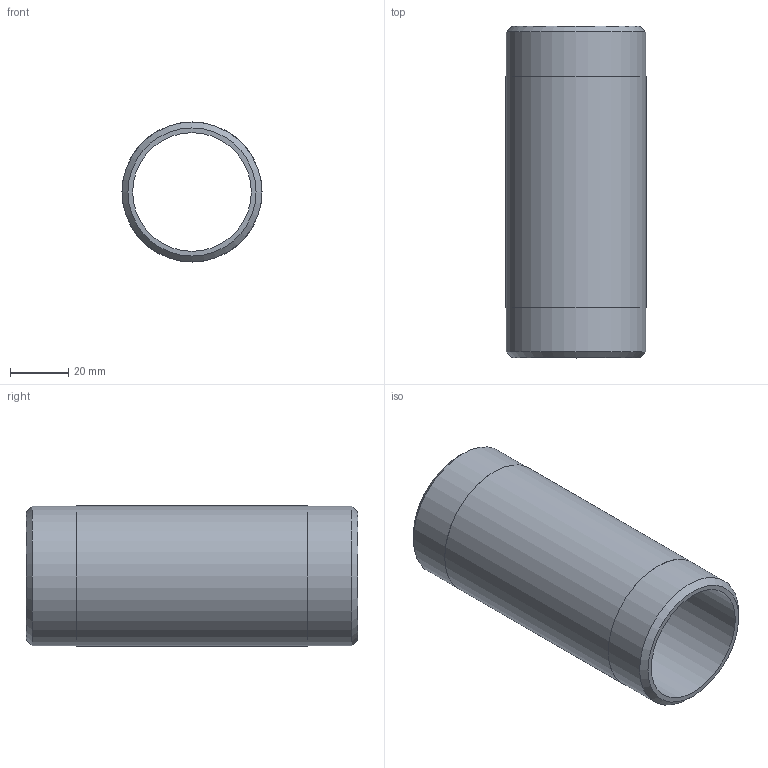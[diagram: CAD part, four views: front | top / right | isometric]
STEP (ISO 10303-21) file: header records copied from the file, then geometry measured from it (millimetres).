
FILE_DESCRIPTION(/* description */ (''),/* implementation_level */ '2;1');
FILE_NAME(/* name */ 'C:/Users/drich/Desktop/BPN1-1_2-4-1_2 v1.step',/* time_stamp */ '2020-01-03T14:27:01-06:00',/* author */ (''),/* organization */ (''),/* preprocessor_version */ 'ST-DEVELOPER v18',/* originating_system */ 'Autodesk Translation Framework v8.12.0.6',/* authorisation */ '');
FILE_SCHEMA (('AUTOMOTIVE_DESIGN { 1 0 10303 214 3 1 1 }'));
Length unit declared in the file: inch
Products named in the file (1): BPN1-1_2-4-1_2
Bounding box: 48.26 x 114.3 x 48.26 mm (x, y, z)
Volume: 58212.4 mm3; surface area: 32668.5 mm2
Topology: 1 solids, 1 shells, 10 faces, 24 edges, 18 vertices
Faces by surface type: cylinder 4, plane 4, cone 2
Full cylindrical faces by diameter (mm): 40.894 x1, 48.209 x2, 48.26 x1
Entity records: 360 total; most frequent: DIRECTION 64, CARTESIAN_POINT 53, ORIENTED_EDGE 48, AXIS2_PLACEMENT_3D 29, EDGE_CURVE 24, CIRCLE 18, VERTEX_POINT 18, EDGE_LOOP 14
